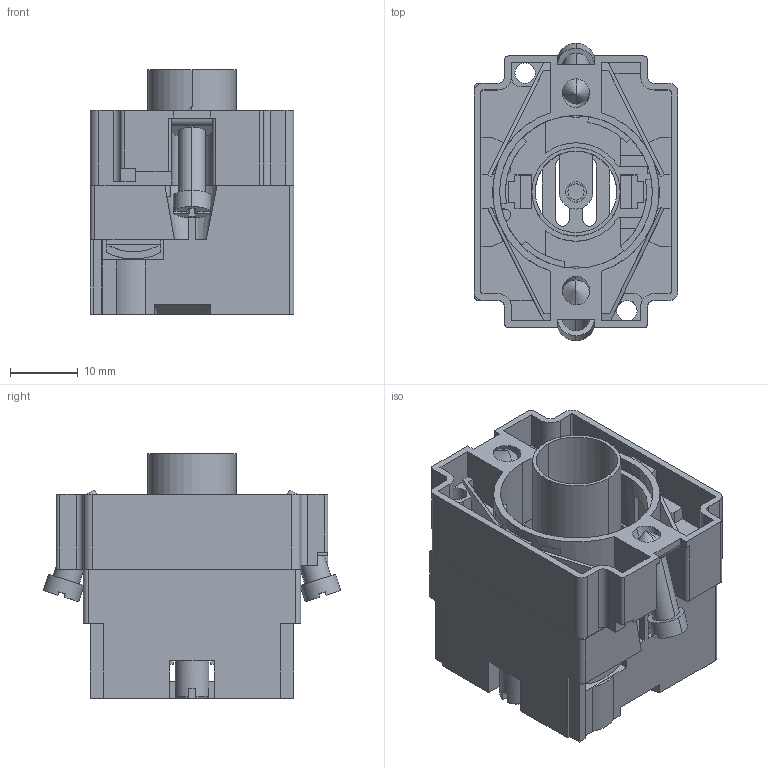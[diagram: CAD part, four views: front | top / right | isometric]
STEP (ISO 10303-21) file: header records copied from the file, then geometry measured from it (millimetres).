
FILE_DESCRIPTION (( 'STEP AP214' ), '1' );
FILE_NAME ('3D 斁麧錪 MTB2-BW611.STEP', '2017-03-03T07:03:47', ( 'adm' ), ( 'MICROSOFT' ), 'SwSTEP 2.0', 'SolidWorks 2011', '' );
FILE_SCHEMA (( 'AUTOMOTIVE_DESIGN' ));
Length unit declared in the file: millimetre
Products named in the file (3): Îñíîâàíèå ìåòàëë; Ìîäóëü ïîäñâåòêè; 3D 斁麧錪 MTB2-BW611
Assembly tree (2 placements, depth 2):
  3D 斁麧錪 MTB2-BW611
    Ìîäóëü ïîäñâåòêè
    Îñíîâàíèå ìåòàëë
Bounding box: 30 x 43.81 x 36 mm (x, y, z)
Volume: 16007.2 mm3; surface area: 17919.2 mm2
Topology: 4 solids, 4 shells, 750 faces, 2081 edges, 1370 vertices
Faces by surface type: plane 529, cylinder 197, cone 12, torus 12
Entity records: 24409 total; most frequent: CARTESIAN_POINT 4804, ORIENTED_EDGE 4154, DIRECTION 3980, EDGE_CURVE 2077, VECTOR 1508, LINE 1508, VERTEX_POINT 1370, AXIS2_PLACEMENT_3D 1236
